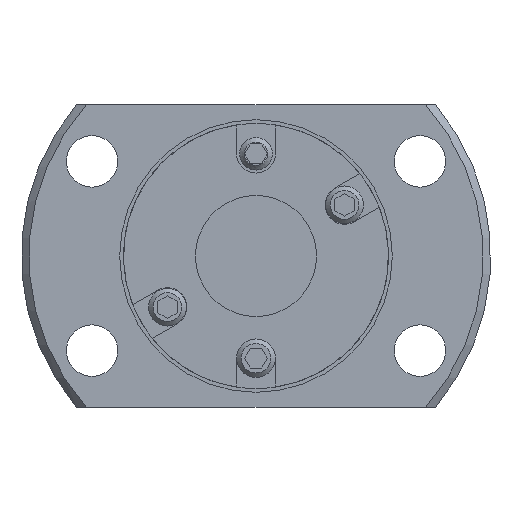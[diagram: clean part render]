
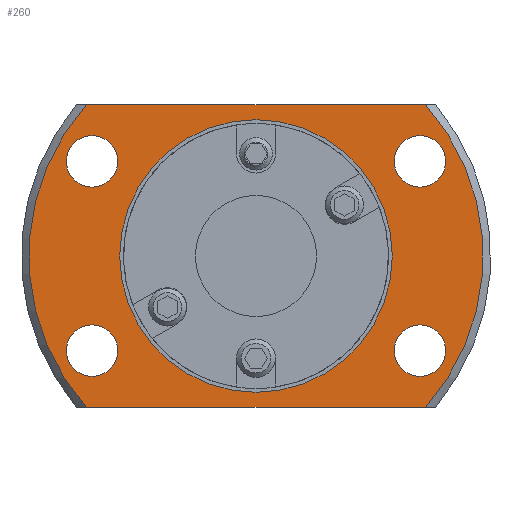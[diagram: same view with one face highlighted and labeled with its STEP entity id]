
A CAD part, left-side view. The second image highlights one B-rep face of the part: STEP entity #260.
In plain terms, the highlighted planar face has unit normal (-1, 0, 0).
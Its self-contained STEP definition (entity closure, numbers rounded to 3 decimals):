
#260 = ADVANCED_FACE( '', ( #541, #542, #543, #544, #545, #546 ), #547, .F. );
#541 = FACE_OUTER_BOUND( '', #847, .T. );
#542 = FACE_BOUND( '', #848, .T. );
#543 = FACE_BOUND( '', #849, .T. );
#544 = FACE_BOUND( '', #850, .T. );
#545 = FACE_BOUND( '', #851, .T. );
#546 = FACE_BOUND( '', #852, .T. );
#547 = PLANE( '', #853 );
#847 = EDGE_LOOP( '', ( #1397, #1398, #1399, #1400 ) );
#848 = EDGE_LOOP( '', ( #1401 ) );
#849 = EDGE_LOOP( '', ( #1402 ) );
#850 = EDGE_LOOP( '', ( #1403 ) );
#851 = EDGE_LOOP( '', ( #1404 ) );
#852 = EDGE_LOOP( '', ( #1405 ) );
#853 = AXIS2_PLACEMENT_3D( '', #1406, #1407, #1408 );
#1397 = ORIENTED_EDGE( '', *, *, #1797, .F. );
#1398 = ORIENTED_EDGE( '', *, *, #1664, .T. );
#1399 = ORIENTED_EDGE( '', *, *, #1860, .F. );
#1400 = ORIENTED_EDGE( '', *, *, #1861, .T. );
#1401 = ORIENTED_EDGE( '', *, *, #1771, .T. );
#1402 = ORIENTED_EDGE( '', *, *, #1801, .T. );
#1403 = ORIENTED_EDGE( '', *, *, #1764, .T. );
#1404 = ORIENTED_EDGE( '', *, *, #1862, .T. );
#1405 = ORIENTED_EDGE( '', *, *, #1654, .T. );
#1406 = CARTESIAN_POINT( '', ( 17., 8.75, 0. ) );
#1407 = DIRECTION( '', ( 1., 0., 0. ) );
#1408 = DIRECTION( '', ( 0., 0., -1. ) );
#1654 = EDGE_CURVE( '', #1921, #1921, #1922, .T. );
#1664 = EDGE_CURVE( '', #1927, #1939, #1941, .T. );
#1764 = EDGE_CURVE( '', #2105, #2105, #2106, .T. );
#1771 = EDGE_CURVE( '', #2116, #2116, #2117, .T. );
#1797 = EDGE_CURVE( '', #1927, #2155, #2156, .T. );
#1801 = EDGE_CURVE( '', #2161, #2161, #2162, .T. );
#1860 = EDGE_CURVE( '', #2243, #1939, #2244, .T. );
#1861 = EDGE_CURVE( '', #2243, #2155, #2245, .T. );
#1862 = EDGE_CURVE( '', #2246, #2246, #2247, .T. );
#1921 = VERTEX_POINT( '', #2317 );
#1922 = CIRCLE( '', #2318, 8.75 );
#1927 = VERTEX_POINT( '', #2323 );
#1939 = VERTEX_POINT( '', #2347 );
#1941 = LINE( '', #2352, #2353 );
#2105 = VERTEX_POINT( '', #2570 );
#2106 = CIRCLE( '', #2571, 1.7 );
#2116 = VERTEX_POINT( '', #2584 );
#2117 = CIRCLE( '', #2585, 1.7 );
#2155 = VERTEX_POINT( '', #2629 );
#2156 = CIRCLE( '', #2630, 15. );
#2161 = VERTEX_POINT( '', #2638 );
#2162 = CIRCLE( '', #2639, 1.7 );
#2243 = VERTEX_POINT( '', #2756 );
#2244 = CIRCLE( '', #2757, 15. );
#2245 = LINE( '', #2758, #2759 );
#2246 = VERTEX_POINT( '', #2760 );
#2247 = CIRCLE( '', #2761, 1.7 );
#2317 = CARTESIAN_POINT( '', ( 17., 0., -8.75 ) );
#2318 = AXIS2_PLACEMENT_3D( '', #2837, #2838, #2839 );
#2323 = CARTESIAN_POINT( '', ( 17., 11.18, -10. ) );
#2347 = CARTESIAN_POINT( '', ( 17., -11.18, -10. ) );
#2352 = CARTESIAN_POINT( '', ( 17., 8.75, -10. ) );
#2353 = VECTOR( '', #2846, 1000. );
#2570 = CARTESIAN_POINT( '', ( 17., 10.825, -7.95 ) );
#2571 = AXIS2_PLACEMENT_3D( '', #2972, #2973, #2974 );
#2584 = CARTESIAN_POINT( '', ( 17., -10.825, 4.55 ) );
#2585 = AXIS2_PLACEMENT_3D( '', #2981, #2982, #2983 );
#2629 = CARTESIAN_POINT( '', ( 17., 11.18, 10. ) );
#2630 = AXIS2_PLACEMENT_3D( '', #3023, #3024, #3025 );
#2638 = CARTESIAN_POINT( '', ( 17., -10.825, -7.95 ) );
#2639 = AXIS2_PLACEMENT_3D( '', #3029, #3030, #3031 );
#2756 = CARTESIAN_POINT( '', ( 17., -11.18, 10. ) );
#2757 = AXIS2_PLACEMENT_3D( '', #3080, #3081, #3082 );
#2758 = CARTESIAN_POINT( '', ( 17., 8.75, 10. ) );
#2759 = VECTOR( '', #3083, 1000. );
#2760 = CARTESIAN_POINT( '', ( 17., 10.825, 4.55 ) );
#2761 = AXIS2_PLACEMENT_3D( '', #3084, #3085, #3086 );
#2837 = CARTESIAN_POINT( '', ( 17., 0., 0. ) );
#2838 = DIRECTION( '', ( 1., 0., 0. ) );
#2839 = DIRECTION( '', ( 0., 0., -1. ) );
#2846 = DIRECTION( '', ( 0., -1., 0. ) );
#2972 = CARTESIAN_POINT( '', ( 17., 10.825, -6.25 ) );
#2973 = DIRECTION( '', ( 1., 0., 0. ) );
#2974 = DIRECTION( '', ( 0., 0., -1. ) );
#2981 = CARTESIAN_POINT( '', ( 17., -10.825, 6.25 ) );
#2982 = DIRECTION( '', ( 1., 0., 0. ) );
#2983 = DIRECTION( '', ( 0., 0., -1. ) );
#3023 = CARTESIAN_POINT( '', ( 17., 0., 0. ) );
#3024 = DIRECTION( '', ( 1., 0., 0. ) );
#3025 = DIRECTION( '', ( 0., 0., -1. ) );
#3029 = CARTESIAN_POINT( '', ( 17., -10.825, -6.25 ) );
#3030 = DIRECTION( '', ( 1., 0., 0. ) );
#3031 = DIRECTION( '', ( 0., 0., -1. ) );
#3080 = CARTESIAN_POINT( '', ( 17., 0., 0. ) );
#3081 = DIRECTION( '', ( 1., 0., 0. ) );
#3082 = DIRECTION( '', ( 0., 0., -1. ) );
#3083 = DIRECTION( '', ( 0., 1., 0. ) );
#3084 = CARTESIAN_POINT( '', ( 17., 10.825, 6.25 ) );
#3085 = DIRECTION( '', ( 1., 0., 0. ) );
#3086 = DIRECTION( '', ( 0., 0., -1. ) );
